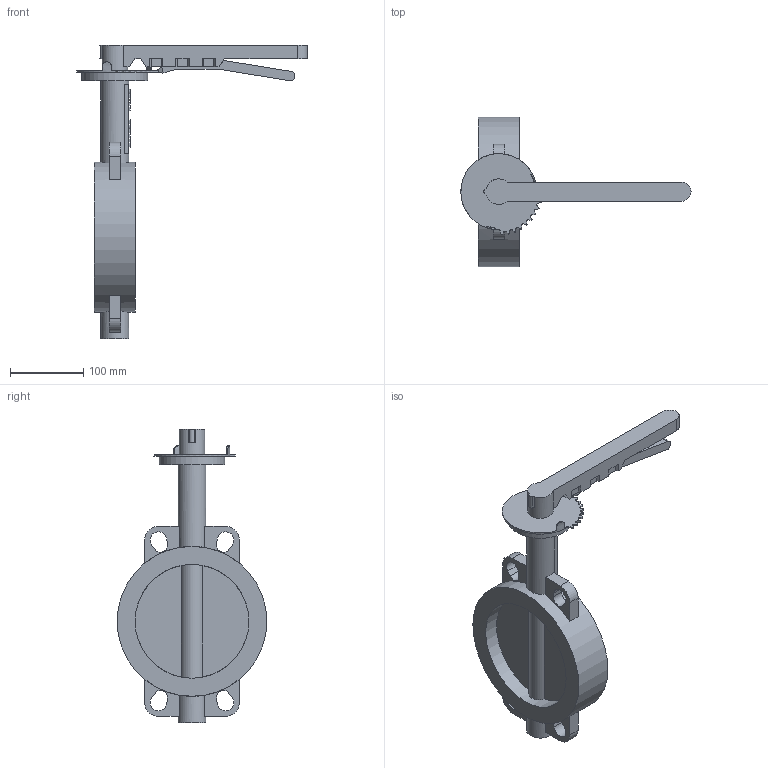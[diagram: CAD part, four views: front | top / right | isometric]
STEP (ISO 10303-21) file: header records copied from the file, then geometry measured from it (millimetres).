
FILE_DESCRIPTION(('STEP AP203'), '1');
FILE_NAME('Çàòâîð 017W.Z(÷óãóí) DN150 PN10_16 ðóêîÿòêà', '', ('UNSPECIFIED'), ('UNSPECIFIED'), 'ASCON STEP Converter 1.6', 'ASCON Math Kernel', '');
FILE_SCHEMA(('CONFIG_CONTROL_DESIGN'));
Length unit declared in the file: millimetre
Bounding box: 315 x 205 x 402 mm (x, y, z)
Volume: 222768.4 mm3; surface area: 230513.2 mm2
Topology: 1 solids, 2 shells, 867 faces, 2583 edges, 1665 vertices
Faces by surface type: cylinder 607, plane 260
Full cylindrical faces by diameter (mm): 10 x4, 18.9 x1, 35 x1, 38 x2, 55 x1, 90 x1, 155.7 x2, 205 x1
Entity records: 37443 total; most frequent: CARTESIAN_POINT 6035, DIRECTION 5569, ORIENTED_EDGE 5064, EDGE_CURVE 2571, AXIS2_PLACEMENT_3D 2158, VERTEX_POINT 1665, CIRCLE 1290, LINE 1253
